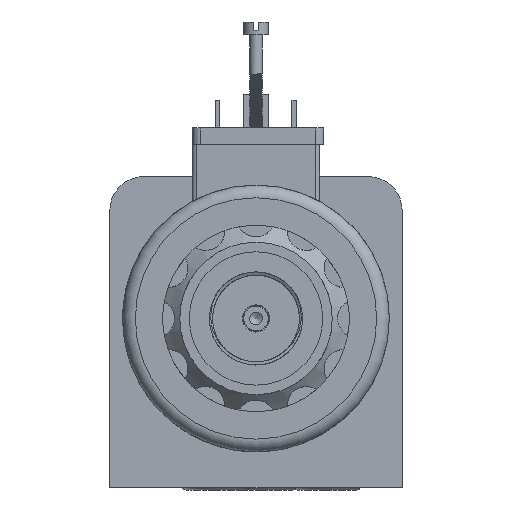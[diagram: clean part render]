
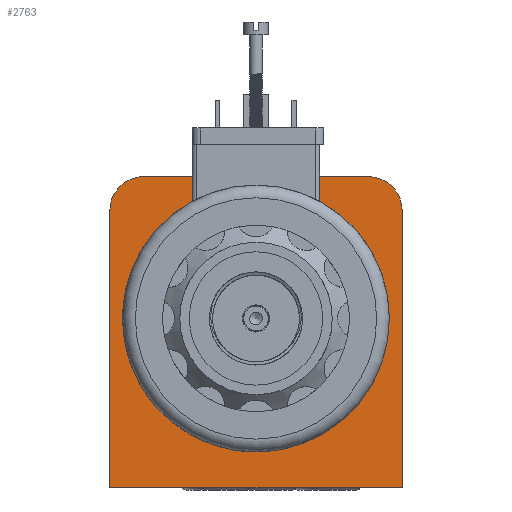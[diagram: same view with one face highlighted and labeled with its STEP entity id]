
A CAD part, left-side view. The second image highlights one B-rep face of the part: STEP entity #2763.
In plain terms, the highlighted planar face has unit normal (-1, 0, 0).
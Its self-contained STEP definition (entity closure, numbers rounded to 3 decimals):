
#475=B_SPLINE_CURVE_WITH_KNOTS('',3,(#33786,#33787,#33788,#33789,#33790,
#33791,#33792,#33793,#33794,#33795,#33796,#33797,#33798,#33799,#33800,#33801,
#33802,#33803,#33804,#33805,#33806,#33807,#33808,#33809,#33810),
 .UNSPECIFIED.,.T.,.F.,(1,3,3,3,3,3,3,3,3,3,1),(-0.125,0.,0.125,0.25,0.375,
0.5,0.625,0.75,0.875,1.,1.125),.UNSPECIFIED.);
#2763=ADVANCED_FACE('',(#3893,#3894),#3455,.T.);
#3455=PLANE('',#13971);
#3893=FACE_BOUND('',#4601,.T.);
#3894=FACE_BOUND('',#4602,.T.);
#4601=EDGE_LOOP('',(#6956,#6957,#6958,#6959,#6960,#6961,#6962));
#4602=EDGE_LOOP('',(#6963));
#5518=CIRCLE('',#13964,8.);
#5519=CIRCLE('',#13966,8.);
#6956=ORIENTED_EDGE('',*,*,#10942,.F.);
#6957=ORIENTED_EDGE('',*,*,#10941,.F.);
#6958=ORIENTED_EDGE('',*,*,#10958,.T.);
#6959=ORIENTED_EDGE('',*,*,#10889,.F.);
#6960=ORIENTED_EDGE('',*,*,#10962,.T.);
#6961=ORIENTED_EDGE('',*,*,#10903,.T.);
#6962=ORIENTED_EDGE('',*,*,#10959,.T.);
#6963=ORIENTED_EDGE('',*,*,#10963,.T.);
#9575=VERTEX_POINT('',#33625);
#9576=VERTEX_POINT('',#33627);
#9589=VERTEX_POINT('',#33657);
#9590=VERTEX_POINT('',#33659);
#9624=VERTEX_POINT('',#33744);
#9625=VERTEX_POINT('',#33746);
#9626=VERTEX_POINT('',#33748);
#9639=VERTEX_POINT('',#33811);
#10889=EDGE_CURVE('',#9575,#9576,#12299,.T.);
#10903=EDGE_CURVE('',#9590,#9589,#12312,.T.);
#10941=EDGE_CURVE('',#9624,#9625,#12333,.T.);
#10942=EDGE_CURVE('',#9625,#9626,#12334,.T.);
#10958=EDGE_CURVE('',#9624,#9576,#5518,.T.);
#10959=EDGE_CURVE('',#9589,#9626,#5519,.T.);
#10962=EDGE_CURVE('',#9575,#9590,#12342,.T.);
#10963=EDGE_CURVE('',#9639,#9639,#475,.T.);
#12299=LINE('',#33626,#13077);
#12312=LINE('',#33658,#13090);
#12333=LINE('',#33745,#13111);
#12334=LINE('',#33747,#13112);
#12342=LINE('',#33785,#13120);
#13077=VECTOR('',#15848,1.);
#13090=VECTOR('',#15863,1.);
#13111=VECTOR('',#15916,1.);
#13112=VECTOR('',#15917,1.);
#13120=VECTOR('',#15959,1.);
#13964=AXIS2_PLACEMENT_3D('',#33778,#15945,#15946);
#13966=AXIS2_PLACEMENT_3D('',#33780,#15949,#15950);
#13971=AXIS2_PLACEMENT_3D('',#33812,#15960,#15961);
#15848=DIRECTION('',(0.,0.,1.));
#15863=DIRECTION('',(0.,0.,1.));
#15916=DIRECTION('',(0.,-1.,0.));
#15917=DIRECTION('',(0.,-1.,0.));
#15945=DIRECTION('',(-1.,0.,0.));
#15946=DIRECTION('',(0.,0.,1.));
#15949=DIRECTION('',(-1.,0.,0.));
#15950=DIRECTION('',(0.,0.,1.));
#15959=DIRECTION('',(0.,-1.,0.));
#15960=DIRECTION('',(-1.,0.,0.));
#15961=DIRECTION('',(0.,0.,1.));
#33625=CARTESIAN_POINT('',(194.81,231.644,-73.5));
#33626=CARTESIAN_POINT('',(194.81,231.644,-120.));
#33627=CARTESIAN_POINT('',(194.81,231.644,-7.971));
#33657=CARTESIAN_POINT('',(194.81,162.644,-8.));
#33658=CARTESIAN_POINT('',(194.81,162.644,-120.));
#33659=CARTESIAN_POINT('',(194.81,162.644,-73.5));
#33744=CARTESIAN_POINT('',(194.81,223.644,0.));
#33745=CARTESIAN_POINT('',(194.81,231.134,0.));
#33746=CARTESIAN_POINT('',(194.81,213.145,0.));
#33747=CARTESIAN_POINT('',(194.81,167.644,0.));
#33748=CARTESIAN_POINT('',(194.81,170.644,0.));
#33778=CARTESIAN_POINT('',(194.81,223.644,-8.));
#33780=CARTESIAN_POINT('',(194.81,170.644,-8.));
#33785=CARTESIAN_POINT('',(194.81,231.134,-73.5));
#33786=CARTESIAN_POINT('',(194.81,197.144,-17.));
#33787=CARTESIAN_POINT('',(194.81,192.809,-17.));
#33788=CARTESIAN_POINT('',(194.81,188.539,-18.77));
#33789=CARTESIAN_POINT('',(194.81,185.477,-21.833));
#33790=CARTESIAN_POINT('',(194.81,182.415,-24.895));
#33791=CARTESIAN_POINT('',(194.81,180.644,-29.169));
#33792=CARTESIAN_POINT('',(194.81,180.644,-33.5));
#33793=CARTESIAN_POINT('',(194.81,180.645,-37.831));
#33794=CARTESIAN_POINT('',(194.81,182.415,-42.105));
#33795=CARTESIAN_POINT('',(194.81,185.477,-45.167));
#33796=CARTESIAN_POINT('',(194.81,188.54,-48.229));
#33797=CARTESIAN_POINT('',(194.81,192.814,-50.));
#33798=CARTESIAN_POINT('',(194.81,197.144,-50.));
#33799=CARTESIAN_POINT('',(194.81,201.475,-50.));
#33800=CARTESIAN_POINT('',(194.81,205.75,-48.23));
#33801=CARTESIAN_POINT('',(194.81,208.812,-45.167));
#33802=CARTESIAN_POINT('',(194.81,211.874,-42.105));
#33803=CARTESIAN_POINT('',(194.81,213.645,-37.831));
#33804=CARTESIAN_POINT('',(194.81,213.644,-33.5));
#33805=CARTESIAN_POINT('',(194.81,213.644,-29.169));
#33806=CARTESIAN_POINT('',(194.81,211.874,-24.895));
#33807=CARTESIAN_POINT('',(194.81,208.812,-21.833));
#33808=CARTESIAN_POINT('',(194.81,205.749,-18.771));
#33809=CARTESIAN_POINT('',(194.81,201.477,-17.));
#33810=CARTESIAN_POINT('',(194.81,197.144,-17.));
#33811=CARTESIAN_POINT('',(194.81,197.144,-17.));
#33812=CARTESIAN_POINT('',(194.81,231.134,-120.));
